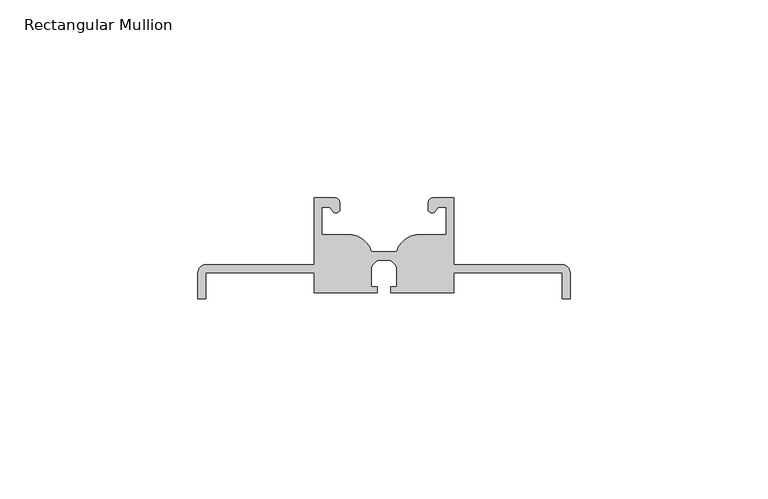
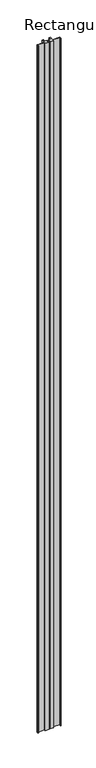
"""IFC4 building model written with IfcOpenShell, lengths in millimetres: member geometry, Rectangular Mullion : LD.0240 - left_renson."""

from ifc_helpers import new_model, si_unit, point, frame, frame_2d, origin, place, context, project, spatial, polyline, circle_curve, trimmed, segment, composite_curve, outline, extrude, source, transform, mapped, element, save


def rectangular_mullion_1457c40f(model_context):
    return source(origin(), model_context, "Body", "SweptSolid", [
        extrude(outline(composite_curve([segment(polyline([(-50.0, 7.6257936), (-50.0, 1.0), (-52.0087419, 1.0), (-52.0087419, 7.611542), (-79.3400236, 7.611542), (-79.3400236, 2.5065082), (-95.3054808, 2.5065082), (-95.3054808, 4.0065082), (-93.8258511, 4.0065082), (-93.8258511, 9.0065082)]), True, "CONTINUOUS"), segment(trimmed(circle_curve(frame_2d((-96.9960208, 7.6048296)), 3.4662197), [point((-93.8258511, 9.0065082))], [point((-95.5943423, 10.7749993))], True, "CARTESIAN"), True, "CONTINUOUS"), segment(polyline([(-95.5943423, 10.7749993), (-98.4056577, 10.7749993)]), True, "CONTINUOUS"), segment(trimmed(circle_curve(frame_2d((-97.0039792, 7.6048296)), 3.4662197), [point((-98.4056577, 10.7749993))], [point((-100.1741489, 9.0065082))], True, "CARTESIAN"), True, "CONTINUOUS"), segment(polyline([(-100.1741489, 9.0065082), (-100.1741489, 4.0065082), (-98.6945192, 4.0065082), (-98.6945192, 2.5065082), (-114.6599764, 2.5065082), (-114.6599764, 7.611542), (-141.9912581, 7.611542), (-141.9912581, 1.0), (-144.0, 1.0), (-144.0, 7.6257936)]), True, "CONTINUOUS"), segment(trimmed(circle_curve(frame_2d((-141.9912581, 7.6257936)), 2.0087419), [point((-144.0, 7.6257936))], [point((-141.9912581, 9.6345355))], False, "CARTESIAN"), True, "CONTINUOUS"), segment(polyline([(-141.9912581, 9.6345355), (-114.6599764, 9.6345355), (-114.6599764, 26.5), (-109.3468461, 26.5)]), True, "CONTINUOUS"), segment(trimmed(circle_curve(frame_2d((-109.3468461, 25.3135005)), 1.1864995), [point((-109.3468461, 26.5))], [point((-108.1603466, 25.3135005))], False, "CARTESIAN"), True, "CONTINUOUS"), segment(polyline([(-108.1603466, 25.3135005), (-108.1603466, 23.3009057)]), True, "CONTINUOUS"), segment(trimmed(circle_curve(frame_2d((-109.1227149, 23.8515635)), 1.1087726), [point((-108.1603466, 23.3009057))], [point((-109.8614271, 23.0247134))], False, "CARTESIAN"), True, "CONTINUOUS"), segment(polyline([(-109.8614271, 23.0247134), (-110.7509755, 24.1232143), (-112.6734126, 24.1232143), (-112.6734126, 17.2531745), (-105.1368198, 17.2531745)]), True, "CONTINUOUS"), segment(trimmed(circle_curve(frame_2d((-106.367927, 10.8255058)), 6.5445053), [point((-105.1368198, 17.2531745))], [point((-100.1741489, 12.9391905))], False, "CARTESIAN"), True, "CONTINUOUS"), segment(polyline([(-100.1741489, 12.9391905), (-93.8258511, 12.9391905)]), True, "CONTINUOUS"), segment(trimmed(circle_curve(frame_2d((-87.632073, 10.8255058)), 6.5445053), [point((-93.8258511, 12.9391905))], [point((-88.8631802, 17.2531745))], False, "CARTESIAN"), True, "CONTINUOUS"), segment(polyline([(-88.8631802, 17.2531745), (-81.3265874, 17.2531745), (-81.3265874, 24.1232143), (-83.2490245, 24.1232143), (-84.1385729, 23.0247134)]), True, "CONTINUOUS"), segment(trimmed(circle_curve(frame_2d((-84.8772851, 23.8515635)), 1.1087726), [point((-84.1385729, 23.0247134))], [point((-85.8396534, 23.3009057))], False, "CARTESIAN"), True, "CONTINUOUS"), segment(polyline([(-85.8396534, 23.3009057), (-85.8396534, 25.3135005)]), True, "CONTINUOUS"), segment(trimmed(circle_curve(frame_2d((-84.6531539, 25.3135005)), 1.1864995), [point((-85.8396534, 25.3135005))], [point((-84.6531539, 26.5))], False, "CARTESIAN"), True, "CONTINUOUS"), segment(polyline([(-84.6531539, 26.5), (-79.3400236, 26.5), (-79.3400236, 9.6345355), (-52.0087419, 9.6345355)]), True, "CONTINUOUS"), segment(trimmed(circle_curve(frame_2d((-52.0087419, 7.6257936)), 2.0087419), [point((-52.0087419, 9.6345355))], [point((-50.0, 7.6257936))], False, "CARTESIAN"), True, "CONTINUOUS")], self_intersect=False)), frame((0.0, 0.0, -3000.0), z_axis=(0.0, 0.0, 1.0), x_axis=(1.0, 0.0, 0.0)), (0.0, 0.0, 1.0), 3000.0),
    ])


if __name__ == "__main__":
    model = new_model("IFC4")
    model_context = context("Model", 3, world=origin())
    ifc_project = project(units=[si_unit("LENGTHUNIT", "METRE", prefix="MILLI")], contexts=[model_context])
    site = spatial("IfcSite", under=ifc_project)
    building = spatial("IfcBuilding", under=site)
    placement = place(None, origin())
    rectangular_mullion_shape = rectangular_mullion_1457c40f(model_context)
    element("IfcMember", 1, ObjectType="Rectangular Mullion : LD.0240 - left_renson", at=placement, inside=building, context=model_context, shape_type="MappedRepresentation", body=[
        mapped(rectangular_mullion_shape, transform((0.0, 0.0, 0.0), x_axis=(1.0, 0.0, 0.0), y_axis=(0.0, 1.0, 0.0), z_axis=(0.0, 0.0, 1.0))),
    ])
    save(model, "model.ifc")
